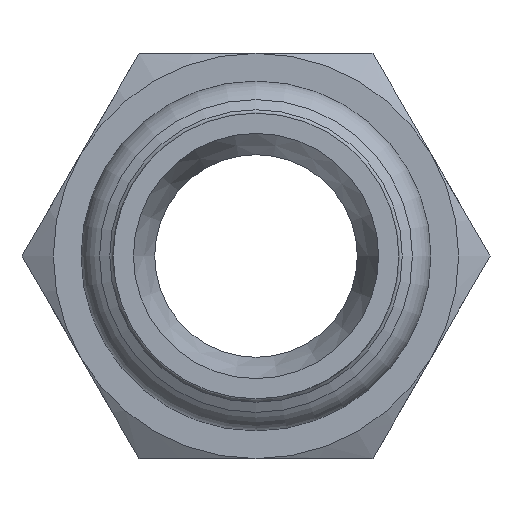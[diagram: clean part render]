
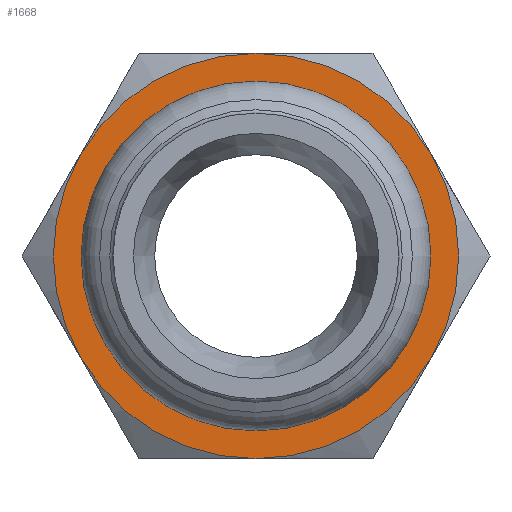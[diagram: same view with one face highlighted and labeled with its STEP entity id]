
A CAD part, left-side view. The second image highlights one B-rep face of the part: STEP entity #1668.
In plain terms, the highlighted planar face has unit normal (-1, 0, 0) as drawn and (0, 0, -1) by its records, which use the part's own axes.
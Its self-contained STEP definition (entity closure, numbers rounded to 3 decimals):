
#1102=CARTESIAN_POINT('',(0.0,-15.,-24.0));
#1103=VERTEX_POINT('',#1102);
#1117=CARTESIAN_POINT('',(-12.99,-7.5,-24.0));
#1118=VERTEX_POINT('',#1117);
#1132=CARTESIAN_POINT('',(0.0,0.0,-24.));
#1133=DIRECTION('',(0.0,0.0,-1.0));
#1134=DIRECTION('',(1.0,0.0,0.0));
#1135=AXIS2_PLACEMENT_3D('',#1132,#1133,#1134);
#1136=CIRCLE('',#1135,15.);
#1137=EDGE_CURVE('',#1103,#1118,#1136,.T.);
#1149=CARTESIAN_POINT('',(12.99,-7.5,-24.0));
#1150=VERTEX_POINT('',#1149);
#1177=CARTESIAN_POINT('',(0.0,0.0,-24.));
#1178=DIRECTION('',(0.0,0.0,-1.0));
#1179=DIRECTION('',(1.0,0.0,0.0));
#1180=AXIS2_PLACEMENT_3D('',#1177,#1178,#1179);
#1181=CIRCLE('',#1180,15.);
#1182=EDGE_CURVE('',#1150,#1103,#1181,.T.);
#1194=CARTESIAN_POINT('',(12.99,7.5,-24.0));
#1195=VERTEX_POINT('',#1194);
#1222=CARTESIAN_POINT('',(0.0,0.0,-24.));
#1223=DIRECTION('',(0.0,0.0,-1.0));
#1224=DIRECTION('',(1.0,0.0,0.0));
#1225=AXIS2_PLACEMENT_3D('',#1222,#1223,#1224);
#1226=CIRCLE('',#1225,15.);
#1227=EDGE_CURVE('',#1195,#1150,#1226,.T.);
#1252=CARTESIAN_POINT('',(0.0,15.,-24.0));
#1253=VERTEX_POINT('',#1252);
#1254=CARTESIAN_POINT('',(0.0,0.0,-24.));
#1255=DIRECTION('',(0.0,0.0,-1.0));
#1256=DIRECTION('',(1.0,0.0,0.0));
#1257=AXIS2_PLACEMENT_3D('',#1254,#1255,#1256);
#1258=CIRCLE('',#1257,15.);
#1259=EDGE_CURVE('',#1253,#1195,#1258,.T.);
#1297=CARTESIAN_POINT('',(-12.99,7.5,-24.0));
#1298=VERTEX_POINT('',#1297);
#1299=CARTESIAN_POINT('',(0.0,0.0,-24.));
#1300=DIRECTION('',(0.0,0.0,-1.0));
#1301=DIRECTION('',(1.0,0.0,0.0));
#1302=AXIS2_PLACEMENT_3D('',#1299,#1300,#1301);
#1303=CIRCLE('',#1302,15.);
#1304=EDGE_CURVE('',#1298,#1253,#1303,.T.);
#1342=CARTESIAN_POINT('',(0.0,0.0,-24.));
#1343=DIRECTION('',(0.0,0.0,-1.0));
#1344=DIRECTION('',(1.0,0.0,0.0));
#1345=AXIS2_PLACEMENT_3D('',#1342,#1343,#1344);
#1346=CIRCLE('',#1345,15.);
#1347=EDGE_CURVE('',#1118,#1298,#1346,.T.);
#1609=CARTESIAN_POINT('',(-11.0,0.,-24.));
#1610=VERTEX_POINT('',#1609);
#1611=CARTESIAN_POINT('',(0.,0.,-24.));
#1612=DIRECTION('',(0.0,0.0,-1.0));
#1613=DIRECTION('',(1.0,0.0,0.0));
#1614=AXIS2_PLACEMENT_3D('',#1611,#1612,#1613);
#1615=CIRCLE('',#1614,11.0);
#1616=EDGE_CURVE('',#1610,#1610,#1615,.T.);
#1652=CARTESIAN_POINT('',(0.,0.,-24.));
#1653=DIRECTION('',(0.0,0.0,1.0));
#1654=DIRECTION('',(1.0,0.0,0.0));
#1655=AXIS2_PLACEMENT_3D('',#1652,#1653,#1654);
#1656=PLANE('',#1655);
#1657=ORIENTED_EDGE('',*,*,#1347,.T.);
#1658=ORIENTED_EDGE('',*,*,#1304,.T.);
#1659=ORIENTED_EDGE('',*,*,#1259,.T.);
#1660=ORIENTED_EDGE('',*,*,#1227,.T.);
#1661=ORIENTED_EDGE('',*,*,#1182,.T.);
#1662=ORIENTED_EDGE('',*,*,#1137,.T.);
#1663=EDGE_LOOP('',(#1657,#1658,#1659,#1660,#1661,#1662));
#1664=FACE_OUTER_BOUND('',#1663,.T.);
#1665=ORIENTED_EDGE('',*,*,#1616,.F.);
#1666=EDGE_LOOP('',(#1665));
#1667=FACE_BOUND('',#1666,.T.);
#1668=ADVANCED_FACE('',(#1664,#1667),#1656,.F.);
